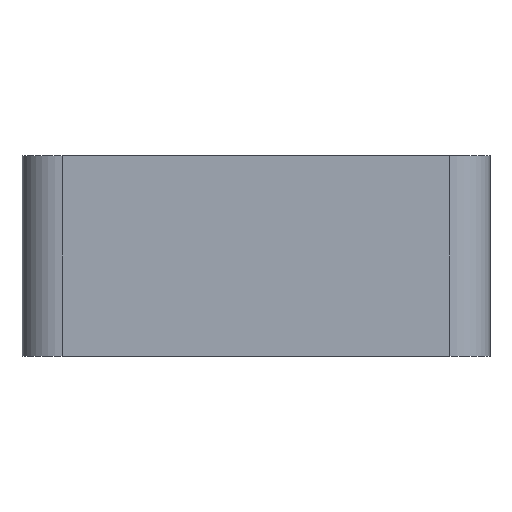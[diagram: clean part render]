
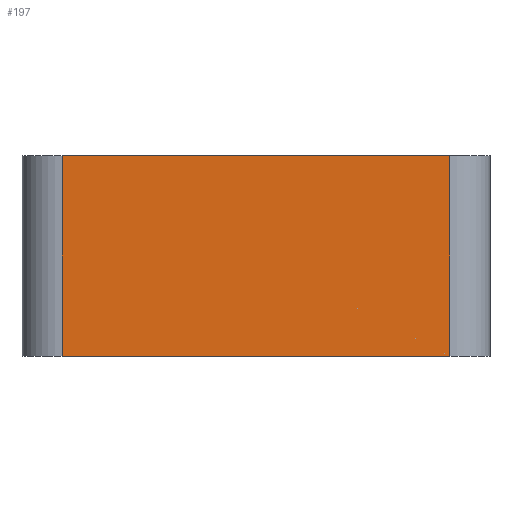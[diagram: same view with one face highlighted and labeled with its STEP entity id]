
A CAD part, front view. The second image highlights one B-rep face of the part: STEP entity #197.
In plain terms, the highlighted planar face has unit normal (0, -1, 0).
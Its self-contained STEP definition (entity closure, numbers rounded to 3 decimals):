
#148=FACE_OUTER_BOUND('',#537,.T.);
#197=ADVANCED_FACE('',(#148),#269,.T.);
#269=PLANE('',#1333);
#307=LINE('',#1886,#366);
#308=LINE('',#1890,#367);
#309=LINE('',#1893,#368);
#310=LINE('',#1894,#369);
#366=VECTOR('',#1436,1.);
#367=VECTOR('',#1441,1.);
#368=VECTOR('',#1442,1.);
#369=VECTOR('',#1443,1.);
#537=EDGE_LOOP('',(#676,#677,#678,#679));
#676=ORIENTED_EDGE('',*,*,#1118,.T.);
#677=ORIENTED_EDGE('',*,*,#1119,.T.);
#678=ORIENTED_EDGE('',*,*,#1116,.T.);
#679=ORIENTED_EDGE('',*,*,#1120,.T.);
#1000=VERTEX_POINT('',#1885);
#1001=VERTEX_POINT('',#1887);
#1002=VERTEX_POINT('',#1891);
#1003=VERTEX_POINT('',#1892);
#1116=EDGE_CURVE('',#1001,#1000,#307,.T.);
#1118=EDGE_CURVE('',#1002,#1003,#308,.T.);
#1119=EDGE_CURVE('',#1003,#1001,#309,.T.);
#1120=EDGE_CURVE('',#1000,#1002,#310,.T.);
#1333=AXIS2_PLACEMENT_3D('',#1895,#1444,#1445);
#1436=DIRECTION('',(-1.,0.,0.));
#1441=DIRECTION('',(1.,0.,0.));
#1442=DIRECTION('',(0.,0.,1.));
#1443=DIRECTION('',(0.,0.,-1.));
#1444=DIRECTION('',(0.,-1.,0.));
#1445=DIRECTION('',(0.,0.,-1.));
#1885=CARTESIAN_POINT('',(3.,0.,15.));
#1886=CARTESIAN_POINT('',(17.5,0.,15.));
#1887=CARTESIAN_POINT('',(32.,0.,15.));
#1890=CARTESIAN_POINT('',(17.5,0.,0.));
#1891=CARTESIAN_POINT('',(3.,0.,0.));
#1892=CARTESIAN_POINT('',(32.,0.,0.));
#1893=CARTESIAN_POINT('',(32.,0.,0.));
#1894=CARTESIAN_POINT('',(3.,0.,0.));
#1895=CARTESIAN_POINT('',(17.5,0.,0.));
